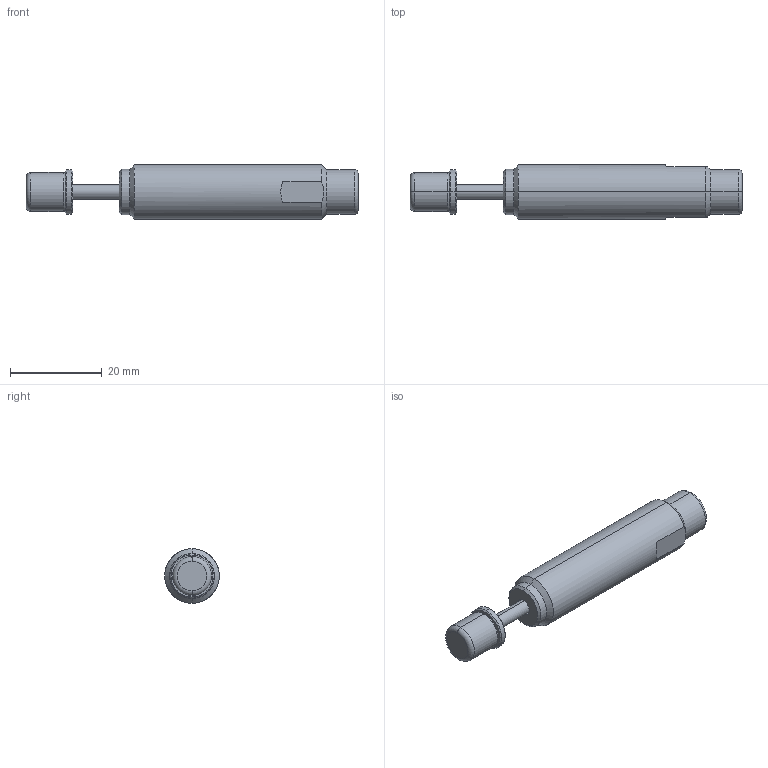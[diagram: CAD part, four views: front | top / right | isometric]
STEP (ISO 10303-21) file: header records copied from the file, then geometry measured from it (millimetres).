
FILE_DESCRIPTION (( 'STEP AP203' ), '1' );
FILE_NAME ('PRO-PM 15MFB.STEP', '2009-04-27T15:22:24', ( ' ' ), ( '' ), 'SwSTEP 2.0', 'SolidWorks 2006233', '' );
FILE_SCHEMA (( 'CONFIG_CONTROL_DESIGN' ));
Length unit declared in the file: inch
Products named in the file (1): PRO-PM 15MFB
Bounding box: 72.39 x 11.91 x 11.91 mm (x, y, z)
Surface area: 2921.3 mm2 (no closed solid volume)
Topology: 0 solids, 7 shells, 57 faces, 136 edges, 88 vertices
Faces by surface type: plane 19, cylinder 18, cone 14, torus 6
Entity records: 1783 total; most frequent: CARTESIAN_POINT 354, DIRECTION 314, ORIENTED_EDGE 242, EDGE_CURVE 136, AXIS2_PLACEMENT_3D 132, VERTEX_POINT 88, CIRCLE 74, EDGE_LOOP 65
